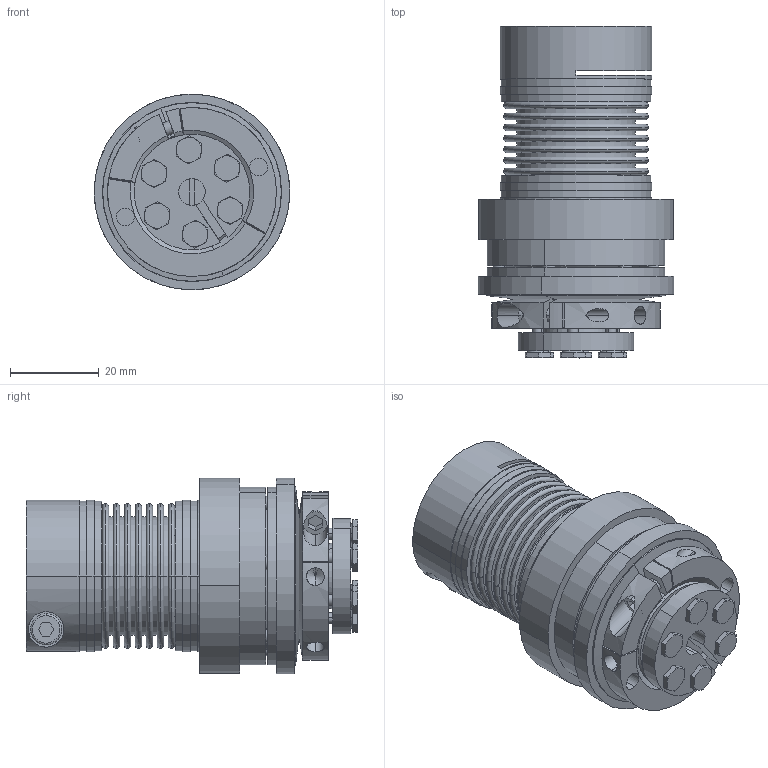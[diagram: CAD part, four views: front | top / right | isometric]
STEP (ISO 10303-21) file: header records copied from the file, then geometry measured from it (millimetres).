
FILE_DESCRIPTION(('STEP AP214'),'1');
FILE_NAME('00_40_dss_sg_n_d6-e_t1___gsf_d11-b.stp','2024-04-16T06:37:19',('TraceParts'),('TraceParts S.A.'),'Spatial InterOp 3D',' ',' ');
FILE_SCHEMA(('AUTOMOTIVE_DESIGN { 1 0 10303 214 1 1 1 1 }'));
Length unit declared in the file: millimetre
Products named in the file (1): 00_40_dss_sg_n_d6-e_t1___gsf_d11-b
Bounding box: 44 x 74.6 x 44 mm (x, y, z)
Volume: 66463.5 mm3; surface area: 29339.7 mm2
Topology: 1 solids, 20 shells, 913 faces, 2318 edges, 1488 vertices
Faces by surface type: cylinder 331, plane 315, torus 161, cone 106
Entity records: 31810 total; most frequent: CARTESIAN_POINT 9696, DIRECTION 4780, ORIENTED_EDGE 4584, EDGE_CURVE 2292, AXIS2_PLACEMENT_3D 1974, VERTEX_POINT 1485, CIRCLE 1057, EDGE_LOOP 1013
